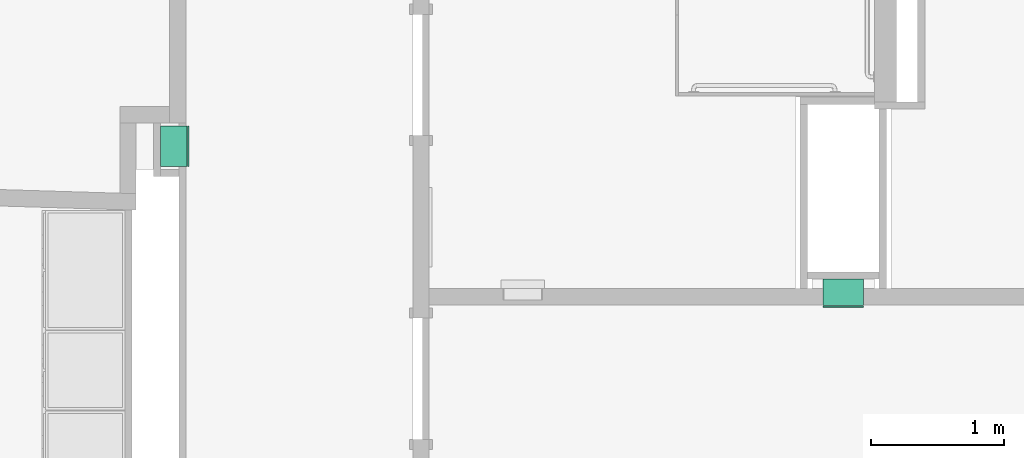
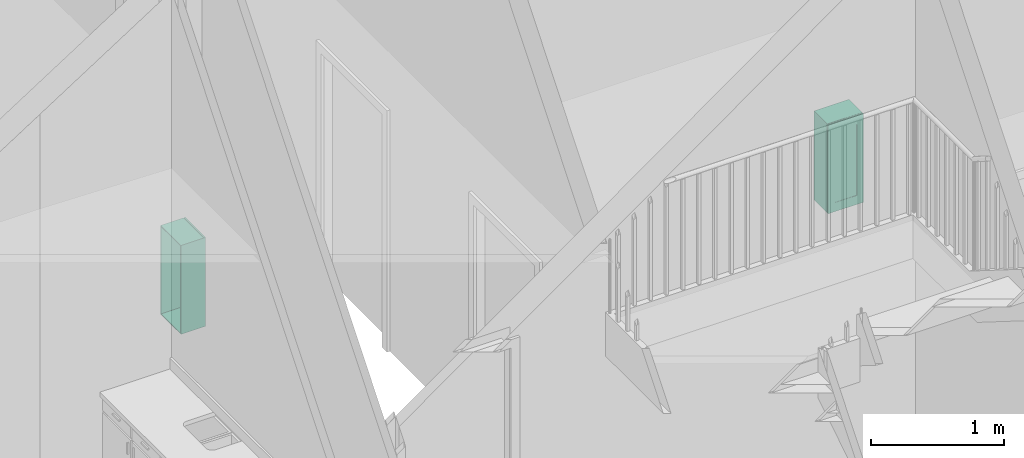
# One storey, part 68 of 82: 2 flow terminals.
"""IFC2X3 building model written with IfcOpenShell, lengths in metres."""

from ifc_helpers import new_model, entity, si_unit, converted_unit, frame, origin, origin_2d_with_axis, place, context, project, spatial, polyline, rectangle, outline, extrude, source, transform, mapped, type_object, type_shapes, element, save


model = new_model("IFC2X3")

# Units and contexts
model_context = context("Model", 3, precision=1e-09, world=origin())
plan_context = context("Plan", 3, precision=1e-09, world=origin())
ifc_project = project(units=[si_unit("LENGTHUNIT", "METRE"), si_unit("AREAUNIT", "SQUARE_METRE"), si_unit("VOLUMEUNIT", "CUBIC_METRE"), converted_unit("PLANEANGLEUNIT", "DEGREE", entity("IfcRatioMeasure", 0.01745329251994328), si_unit("PLANEANGLEUNIT", "RADIAN"), dimensions=[0, 0, 0, 0, 0, 0, 0]), si_unit("TIMEUNIT", "SECOND")], contexts=[model_context, plan_context])

# Site, building, storey, space
site_placement = place(None, origin())
site = spatial("IfcSite", under=ifc_project, at=site_placement, Name="Default", CompositionType="ELEMENT")
building_placement = place(site_placement, origin())
building = spatial("IfcBuilding", under=site, at=building_placement, CompositionType="ELEMENT")
storey_placement = place(building_placement, origin())
storey = spatial("IfcBuildingStorey", under=building, at=storey_placement, Name="First Floor", CompositionType="ELEMENT", Elevation=-3.531500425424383e-13)
space_1_placement = place(storey_placement, origin())
space_1 = spatial("IfcSpace", under=storey, at=space_1_placement, Name="1AC4", CompositionType="ELEMENT", InteriorOrExteriorSpace="INTERNAL")

# Flow terminal
sanitary_terminal_type = type_object("IfcSanitaryTerminalType", Name="305 x 215 x 813mm", PredefinedType="NOTDEFINED")
shared_shape = source(origin(), model_context, "Body", "SweptSolid", [
    extrude(outline(polyline([(-0.1525000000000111, -0.4064999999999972), (0.1525000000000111, -0.4064999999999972), (0.1525000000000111, 0.4064999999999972), (-0.1525000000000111, 0.4064999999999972), (-0.1525000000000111, -0.4064999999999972)]), holes=[polyline([(-0.1461500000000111, -0.4001499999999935), (-0.1461500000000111, 0.4001500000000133), (0.146150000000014, 0.4001500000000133), (0.146150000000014, -0.4001499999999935), (-0.1461500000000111, -0.4001499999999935)])]), frame((-0.1096484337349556, 0.02700000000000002, 1.321500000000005), z_axis=(0.0, 1.0, 0.0), x_axis=(1.0, 0.0, 0.0)), (0.0, 0.0, 1.0), 0.1991249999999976),
    extrude(rectangle(XDim=0.006350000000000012, YDim=0.1907000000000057, at=origin_2d_with_axis()), frame((-0.1096484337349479, 0.2356499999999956, 0.9975499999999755), z_axis=(0.0, 0.0, 1.0), x_axis=(0.0, -1.0, 0.0)), (0.0, 0.0, 1.0), 0.6479000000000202),
    extrude(outline(polyline([(-0.1525000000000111, -0.4064999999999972), (0.1525000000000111, -0.4064999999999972), (0.1525000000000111, 0.4064999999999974), (-0.1525000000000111, 0.4064999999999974), (-0.1525000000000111, -0.4064999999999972)]), holes=[polyline([(-0.0953499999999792, -0.3239499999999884), (-0.0953499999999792, 0.3239500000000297), (0.09535000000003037, 0.3239500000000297), (0.09535000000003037, -0.3239499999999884), (-0.0953499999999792, -0.3239499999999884)])]), frame((-0.1096484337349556, 0.229299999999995, 1.321500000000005), z_axis=(0.0, 1.0, 0.0), x_axis=(1.0, 0.0, 0.0)), (0.0, 0.0, 1.0), 0.01269999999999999),
])
type_shapes(sanitary_terminal_type, [shared_shape])
flow_terminal_1_placement = place(space_1_placement, frame((-14.98464843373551, 44.21099999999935, 0.0), z_axis=(0.0, 0.0, 1.0), x_axis=(-1.0, 0.0, 0.0)))
element("IfcFlowTerminal", 1, at=flow_terminal_1_placement, inside=space_1, type_object=sanitary_terminal_type, Name="M_Fire Extinguisher Cabinet:305 x 215 x 813mm:305 x 215 x 813mm", ObjectType="305 x 215 x 813mm", context=model_context, shape_type="MappedRepresentation", body=[
    mapped(shared_shape, transform((0.0, 0.0, 0.0), scale=1.0)),
])

# Space
space_2_placement = place(storey_placement, origin())
space_2 = spatial("IfcSpace", under=storey, at=space_2_placement, Name="1AC3", CompositionType="ELEMENT", InteriorOrExteriorSpace="INTERNAL")

# Flow terminal
flow_terminal_2_placement = place(space_2_placement, frame((-20.04850000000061, 45.07535156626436, 0.0), z_axis=(0.0, 0.0, 1.0), x_axis=(0.0, -1.0, 0.0)))
element("IfcFlowTerminal", 2, at=flow_terminal_2_placement, inside=space_2, type_object=sanitary_terminal_type, Name="M_Fire Extinguisher Cabinet:305 x 215 x 813mm:305 x 215 x 813mm", ObjectType="305 x 215 x 813mm", context=model_context, shape_type="MappedRepresentation", body=[
    mapped(shared_shape, transform((0.0, 0.0, 0.0), scale=1.0)),
])

save(model, "model.ifc")
